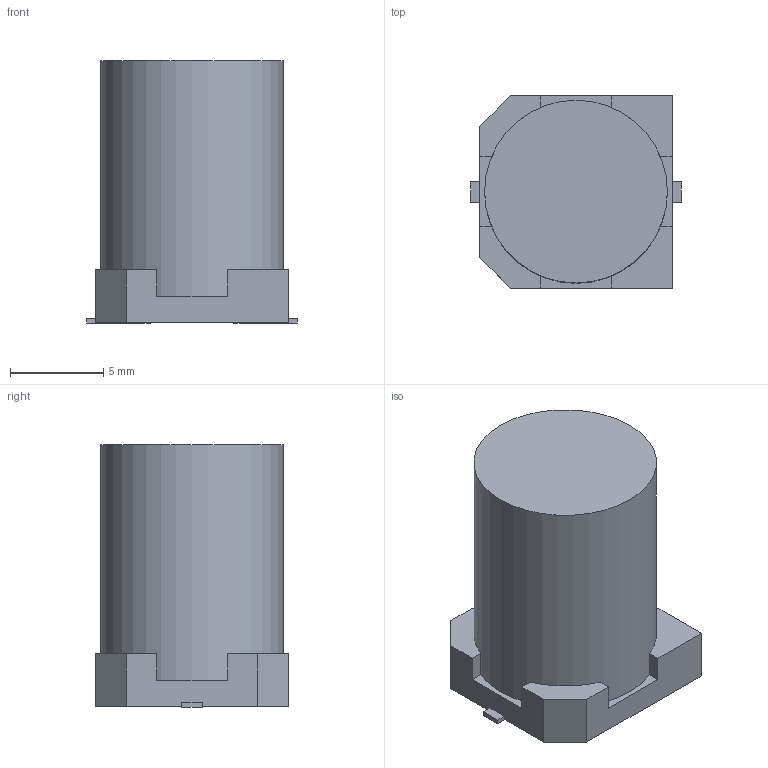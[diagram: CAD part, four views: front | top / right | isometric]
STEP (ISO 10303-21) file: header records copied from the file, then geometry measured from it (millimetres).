
FILE_DESCRIPTION(('STEP AP214'),'1');
FILE_NAME('CAP_UCD_10X13P5_NCH','2026-07-24T11:57:23',(''),(''),'','','');
FILE_SCHEMA(('AUTOMOTIVE_DESIGN'));
Length unit declared in the file: millimetre
Products named in the file (1): product
Bounding box: 11.3 x 10.31 x 14.05 mm (x, y, z)
Volume: 1125.7 mm3; surface area: 880.1 mm2
Topology: 4 solids, 4 shells, 47 faces, 109 edges, 70 vertices
Faces by surface type: plane 42, cylinder 5
Full cylindrical faces by diameter (mm): 9.792 x1
Entity records: 1413 total; most frequent: DIRECTION 216, ORIENTED_EDGE 216, CARTESIAN_POINT 123, EDGE_CURVE 108, LINE 98, VECTOR 98, VERTEX_POINT 70, AXIS2_PLACEMENT_3D 59
